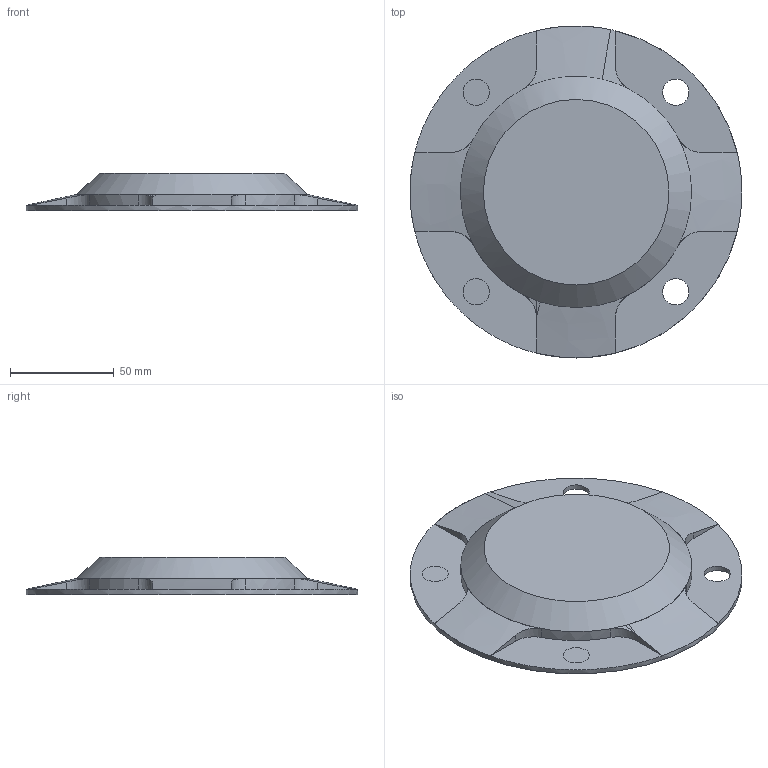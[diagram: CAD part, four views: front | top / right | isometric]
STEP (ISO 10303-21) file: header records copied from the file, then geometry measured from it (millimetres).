
FILE_DESCRIPTION(/* description */ (''),/* implementation_level */ '2;1');
FILE_NAME(/* name */ 'Strut Cover.step',/* time_stamp */ '2024-11-09T23:52:50-06:00',/* author */ (''),/* organization */ (''),/* preprocessor_version */ 'ST-DEVELOPER v20',/* originating_system */ 'Autodesk Translation Framework v13.20.0.188',/* authorisation */ '');
FILE_SCHEMA (('AUTOMOTIVE_DESIGN { 1 0 10303 214 3 1 1 }'));
Length unit declared in the file: inch
Products named in the file (1): Strut Cover
Bounding box: 160.24 x 160.24 x 17.91 mm (x, y, z)
Volume: 63480.1 mm3; surface area: 46568.9 mm2
Topology: 1 solids, 1 shells, 47 faces, 124 edges, 80 vertices
Faces by surface type: plane 16, cylinder 16, bspline 13, torus 2
Full cylindrical faces by diameter (mm): 12.7 x4, 160.241 x1
Entity records: 2862 total; most frequent: CARTESIAN_POINT 1715, ORIENTED_EDGE 248, DIRECTION 203, EDGE_CURVE 124, AXIS2_PLACEMENT_3D 86, VERTEX_POINT 80, EDGE_LOOP 56, CIRCLE 51
